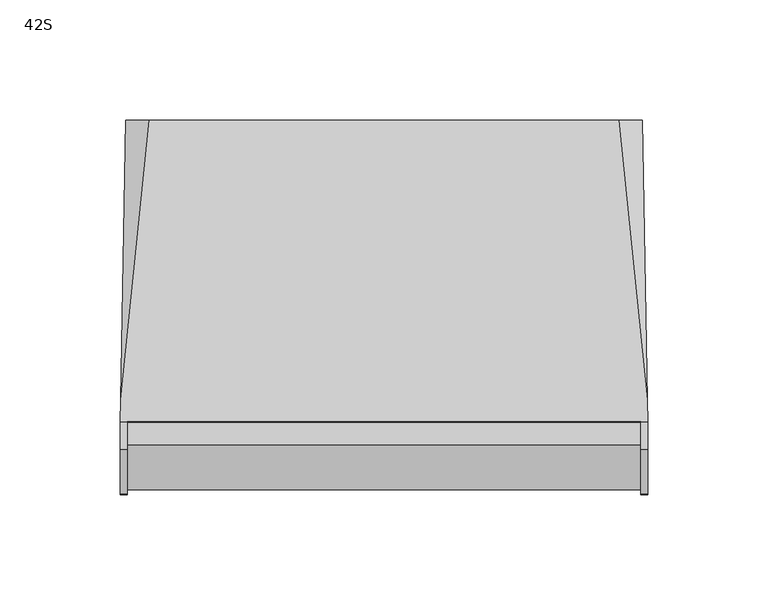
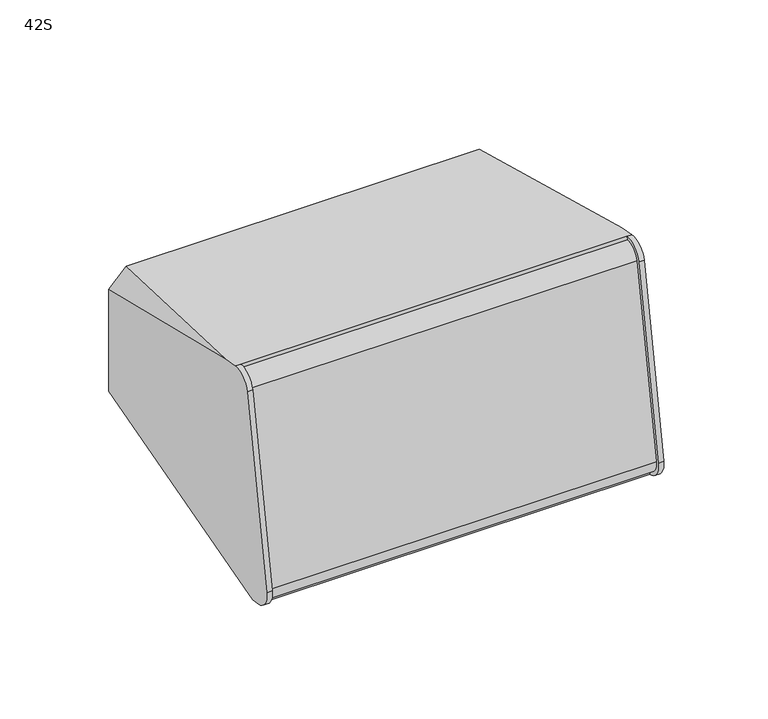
"""IFC4 building model written with IfcOpenShell, lengths in millimetres: proxy geometry, d&b xS-Series 42S Point Source : 42S."""

from ifc_helpers import new_model, si_unit, point, frame, frame_2d, origin, place, context, project, spatial, polyline, circle_curve, ellipse_curve, trimmed, segment, composite_curve, outline, extrude, source, transform, mapped, element, save
from ifc_brep_helpers import plane_surface, cylinder_surface, revolved_surface, advanced_brep


def proxy_42s_521dafe3(model_context):
    return source(origin(), model_context, "Body", "SolidModel", [
        advanced_brep(
        [(107.0, -53.8838283, 74.4884759), (-107.0, -53.8838283, 74.4884759), (-107.0, -54.2235668, 72.5617234), (107.0, -54.2235668, 72.5617234), (-107.0, -63.4507785, 66.1007602), (107.0, -63.4507785, 66.1007602), (-107.0, -82.2184008, -40.3357147), (107.0, -82.2184008, -40.3357147), (-107.0, -75.7291242, -49.6033621), (107.0, -75.7291242, -49.6033621), (-107.0, -76.0764205, -51.5729776), (107.0, -76.0764205, -51.5729776), (-109.8273531, -76.0764205, -51.5729776), (-109.7253263, -70.2363231, -52.6027444), (109.7253263, -70.2363231, -52.6027444), (109.8273531, -76.0764205, -51.5729776), (109.8279536, -53.8838283, 74.4884759), (109.6679034, -44.7224233, 72.873073), (97.8946622, 71.803477, 52.3264129), (-97.8946622, 71.803477, 52.3264129), (-109.6679034, -44.7224233, 72.873073), (-109.8279536, -53.8838283, 74.4884759), (-96.5142171, 71.803477, -27.569373), (96.5142171, 71.803477, -27.569373), (109.6679034, -66.7384961, -51.9862805), (-109.6679034, -66.7384961, -51.9862805), (107.602215, 71.803477, 42.2930744), (-107.602215, 71.803477, 42.2930744), (-107.4240938, 71.803477, -17.3279766), (107.4240938, 71.803477, -17.3279766), (109.9986507, -65.3775311, 66.4404986), (109.9993995, -84.1880163, -39.9884183), (-109.9993995, -84.1880163, -39.9884183), (-109.9993995, -65.420394, 66.4480565), (107.0, -84.1880163, -39.9884183), (107.0, -65.420394, 66.4480565), (95.447753, 71.803477, 33.2098641), (82.947753, 71.803477, 45.7098641), (67.052247, 71.803477, 45.7098641), (54.552247, 71.803477, 33.2098641), (54.552247, 71.803477, -8.3756313), (67.052247, 71.803477, -20.8756313), (82.947753, 71.803477, -20.8756313), (95.447753, 71.803477, -8.3756313), (-52.1, 71.803477, 33.2098641), (-64.6, 71.803477, 45.7098641), (-82.4, 71.803477, 45.7098641), (-94.9, 71.803477, 33.2098641), (-94.9, 71.803477, -8.3756313), (-82.4, 71.803477, -20.8756313), (-64.6, 71.803477, -20.8756313), (-52.1, 71.803477, -8.3756313), (95.447753, 66.803477, 33.2098641), (95.447753, 66.803477, -8.3756313), (82.947753, 66.803477, -20.8756313), (67.052247, 66.803477, -20.8756313), (54.552247, 66.803477, -8.3756313), (54.552247, 66.803477, 33.2098641), (67.052247, 66.803477, 45.7098641), (82.947753, 66.803477, 45.7098641), (-52.1, 66.803477, 33.2098641), (-52.1, 66.803477, -8.3756313), (-64.6, 66.803477, -20.8756313), (-82.4, 66.803477, -20.8756313), (-94.9, 66.803477, -8.3756313), (-94.9, 66.803477, 33.2098641), (-82.4, 66.803477, 45.7098641), (-64.6, 66.803477, 45.7098641), (-107.0, -65.3775311, 66.4404986), (-107.0, -84.1880163, -39.9884183)],
        [
            (0, 1),
            (1, 2),
            (2, 3),
            (3, 0),
            (2, 4, circle_curve(frame((-107.0, -55.606691, 64.7176359), z_axis=(1.0, 0.0, 0.0), x_axis=(0.0, 0.17364817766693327, 0.9848077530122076)), 7.9650952)),
            (4, 5),
            (5, 3, circle_curve(frame((107.0, -55.606691, 64.7176359), z_axis=(-1.0, 0.0, 0.0), x_axis=(0.0, 0.17364817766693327, 0.9848077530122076)), 7.9650952)),
            (4, 6),
            (6, 7),
            (7, 5),
            (6, 8, circle_curve(frame((-107.0, -74.3399388, -41.7249001), z_axis=(1.0, 0.0, 0.0), x_axis=(0.0, 0.17364817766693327, 0.9848077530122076)), 8.0)),
            (8, 9),
            (9, 7, circle_curve(frame((107.0, -74.3399388, -41.7249001), z_axis=(-1.0, 0.0, 0.0), x_axis=(0.0, 0.17364817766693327, 0.9848077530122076)), 8.0)),
            (8, 10),
            (10, 11),
            (11, 9),
            (10, 12),
            (12, 13),
            (13, 14),
            (14, 15),
            (15, 11),
            (0, 16),
            (16, 17),
            (17, 18),
            (18, 19),
            (19, 20),
            (20, 21),
            (21, 1),
            (22, 23),
            (23, 24),
            (24, 14),
            (13, 25),
            (25, 22),
            (26, 18),
            (17, 26),
            (19, 27),
            (27, 20),
            (28, 22),
            (25, 28),
            (23, 29),
            (29, 24),
            (29, 26),
            (16, 30, ellipse_curve(frame((109.8279536, -55.606691, 64.7176359), z_axis=(0.9998520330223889, 0.016940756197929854, -0.0029871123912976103), x_axis=(0.01720209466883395, -0.9846620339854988, 0.17362248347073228)), 9.9230392, 9.921571)),
            (30, 31),
            (31, 15, ellipse_curve(frame((109.8273531, -74.3399388, -41.7249001), z_axis=(0.9998520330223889, 0.016940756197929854, -0.0029871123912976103), x_axis=(0.01720209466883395, -0.9846620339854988, 0.17362248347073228)), 10.0014799, 10.0)),
            (12, 32, ellipse_curve(frame((-109.8273531, -74.3399388, -41.7249001), z_axis=(-0.9998520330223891, 0.016940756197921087, -0.0029871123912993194), x_axis=(0.017202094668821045, 0.9846620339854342, -0.1736224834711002)), 10.0014799, 10.0)),
            (32, 33),
            (33, 21, ellipse_curve(frame((-109.8279536, -55.606691, 64.7176359), z_axis=(-0.9998520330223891, 0.016940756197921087, -0.0029871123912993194), x_axis=(0.017202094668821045, 0.9846620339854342, -0.1736224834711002)), 9.9230392, 9.921571)),
            (27, 28),
            (11, 34, circle_curve(frame((107.0, -74.3399388, -41.7249001), z_axis=(-1.0, 0.0, 0.0), x_axis=(0.0, 0.17364817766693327, 0.9848077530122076)), 10.0)),
            (34, 35),
            (35, 0, circle_curve(frame((107.0, -55.606691, 64.7176359), z_axis=(-1.0, 0.0, 0.0), x_axis=(0.0, 0.17364817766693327, 0.9848077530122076)), 9.921571)),
            (35, 30),
            (34, 31),
            (36, 37, circle_curve(frame((82.947753, 71.803477, 33.2098641), z_axis=(0.0, -1.0, 0.0), x_axis=(0.0, 0.0, -1.0)), 12.5)),
            (37, 38),
            (38, 39, circle_curve(frame((67.052247, 71.803477, 33.2098641), z_axis=(0.0, -1.0, 0.0), x_axis=(0.0, 0.0, -1.0)), 12.5)),
            (39, 40),
            (40, 41, circle_curve(frame((67.052247, 71.803477, -8.3756313), z_axis=(0.0, -1.0, 0.0), x_axis=(0.0, 0.0, -1.0)), 12.5)),
            (41, 42),
            (42, 43, circle_curve(frame((82.947753, 71.803477, -8.3756313), z_axis=(0.0, -1.0, 0.0), x_axis=(0.0, 0.0, -1.0)), 12.5)),
            (43, 36),
            (44, 45, circle_curve(frame((-64.6, 71.803477, 33.2098641), z_axis=(0.0, -1.0, 0.0), x_axis=(0.0, 0.0, -1.0)), 12.5)),
            (45, 46),
            (46, 47, circle_curve(frame((-82.4, 71.803477, 33.2098641), z_axis=(0.0, -1.0, 0.0), x_axis=(0.0, 0.0, -1.0)), 12.5)),
            (47, 48),
            (48, 49, circle_curve(frame((-82.4, 71.803477, -8.3756313), z_axis=(0.0, -1.0, 0.0), x_axis=(0.0, 0.0, -1.0)), 12.5)),
            (49, 50),
            (50, 51, circle_curve(frame((-64.6, 71.803477, -8.3756313), z_axis=(0.0, -1.0, 0.0), x_axis=(0.0, 0.0, -1.0)), 12.5)),
            (51, 44),
            (52, 53),
            (53, 54, circle_curve(frame((82.947753, 66.803477, -8.3756313), z_axis=(0.0, 1.0, 0.0), x_axis=(0.0, 0.0, -1.0)), 12.5)),
            (54, 55),
            (55, 56, circle_curve(frame((67.052247, 66.803477, -8.3756313), z_axis=(0.0, 1.0, 0.0), x_axis=(0.0, 0.0, -1.0)), 12.5)),
            (56, 57),
            (57, 58, circle_curve(frame((67.052247, 66.803477, 33.2098641), z_axis=(0.0, 1.0, 0.0), x_axis=(0.0, 0.0, -1.0)), 12.5)),
            (58, 59),
            (59, 52, circle_curve(frame((82.947753, 66.803477, 33.2098641), z_axis=(0.0, 1.0, 0.0), x_axis=(0.0, 0.0, -1.0)), 12.5)),
            (60, 61),
            (61, 62, circle_curve(frame((-64.6, 66.803477, -8.3756313), z_axis=(0.0, 1.0, 0.0), x_axis=(0.0, 0.0, -1.0)), 12.5)),
            (62, 63),
            (63, 64, circle_curve(frame((-82.4, 66.803477, -8.3756313), z_axis=(0.0, 1.0, 0.0), x_axis=(0.0, 0.0, -1.0)), 12.5)),
            (64, 65),
            (65, 66, circle_curve(frame((-82.4, 66.803477, 33.2098641), z_axis=(0.0, 1.0, 0.0), x_axis=(0.0, 0.0, -1.0)), 12.5)),
            (66, 67),
            (67, 60, circle_curve(frame((-64.6, 66.803477, 33.2098641), z_axis=(0.0, 1.0, 0.0), x_axis=(0.0, 0.0, -1.0)), 12.5)),
            (1, 68, circle_curve(frame((-107.0, -55.606691, 64.7176359), z_axis=(1.0, 0.0, 0.0), x_axis=(0.0, 0.17364817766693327, 0.9848077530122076)), 9.921571)),
            (68, 69),
            (69, 10, circle_curve(frame((-107.0, -74.3399388, -41.7249001), z_axis=(1.0, 0.0, 0.0), x_axis=(0.0, 0.17364817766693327, 0.9848077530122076)), 10.0)),
            (33, 68),
            (32, 69),
            (59, 37),
            (36, 52),
            (58, 38),
            (57, 39),
            (56, 40),
            (55, 41),
            (54, 42),
            (53, 43),
            (67, 45),
            (44, 60),
            (66, 46),
            (65, 47),
            (64, 48),
            (63, 49),
            (62, 50),
            (61, 51),
        ],
        [
            plane_surface(frame((107.0, -53.8838283, 74.4884759), z_axis=(0.0, -0.9848077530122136, 0.1736481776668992), x_axis=(-1.0, 0.0, 0.0))),
            cylinder_surface(frame((-107.0, -55.606691, 64.7176359), z_axis=(1.0, 0.0, 0.0), x_axis=(0.0, 0.17364817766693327, 0.9848077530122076)), 7.9650952),
            plane_surface(frame((107.0, -63.4507785, 66.1007602), z_axis=(0.0, -0.9848077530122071, 0.17364817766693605), x_axis=(-1.0, 0.0, 0.0))),
            cylinder_surface(frame((-107.0, -74.3399388, -41.7249001), z_axis=(1.0, 0.0, 0.0), x_axis=(0.0, 0.17364817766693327, 0.9848077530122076)), 8.0),
            plane_surface(frame((107.0, -75.7291242, -49.6033621), z_axis=(0.0, -0.9848077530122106, 0.17364817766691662), x_axis=(-1.0, 0.0, 0.0))),
            plane_surface(frame((107.0, -76.0764205, -51.5729776), z_axis=(0.0, -0.17364817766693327, -0.9848077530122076), x_axis=(-1.0, 0.0, 0.0))),
            plane_surface(frame((107.0, -48.0093563, 73.452648), z_axis=(0.0, 0.17364817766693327, 0.9848077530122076), x_axis=(-1.0, 0.0, 0.0))),
            plane_surface(frame((0.0, 72.3274823, -27.4770213), z_axis=(0.0, 0.17356696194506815, -0.9848220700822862), x_axis=(1.0, 0.0, 0.0))),
            plane_surface(frame((103.232233, 84.7836622, 43.1654853), z_axis=(0.7053631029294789, 0.1916027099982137, 0.6824597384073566), x_axis=(-0.7071067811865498, 0.12278780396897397, 0.6963642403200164))),
            plane_surface(frame((-103.232233, 84.7836622, 43.1654853), z_axis=(-0.7053631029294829, 0.19160270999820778, 0.6824597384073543), x_axis=(-0.7071067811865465, -0.12278780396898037, -0.6963642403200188))),
            plane_surface(frame((-103.232233, 73.5026927, -20.812072), z_axis=(-0.6719558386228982, 0.18995477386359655, -0.715815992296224), x_axis=(0.7071067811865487, -0.12278780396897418, -0.6963642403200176))),
            plane_surface(frame((103.232233, 73.5026927, -20.812072), z_axis=(0.6719558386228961, 0.189954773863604, -0.7158159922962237), x_axis=(0.7071067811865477, 0.12278780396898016, 0.6963642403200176))),
            plane_surface(frame((110.3665166, -113.1899198, -81.5842244), z_axis=(0.9998520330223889, 0.016940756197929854, -0.0029871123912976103), x_axis=(0.0, 0.17364817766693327, 0.9848077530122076))),
            plane_surface(frame((-107.2474477, 65.3481506, -113.0653033), z_axis=(-0.9998520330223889, 0.016940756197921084, -0.0029871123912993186), x_axis=(0.0, 0.17364817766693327, 0.9848077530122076))),
            plane_surface(frame((107.0, -53.8838283, 74.4884759), z_axis=(-1.0, 0.0, 0.0), x_axis=(0.0, 0.9848077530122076, -0.17364817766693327))),
            cylinder_surface(frame((107.0, -55.606691, 64.7176359), z_axis=(1.0, 0.0, 0.0), x_axis=(0.0, 0.17364817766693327, 0.9848077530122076)), 9.921571),
            plane_surface(frame((112.6426388, -65.420394, 66.4480565), z_axis=(0.0, -0.9848077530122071, 0.17364817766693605), x_axis=(-1.0, 0.0, 0.0))),
            cylinder_surface(frame((107.0, -74.3399388, -41.7249001), z_axis=(1.0, 0.0, 0.0), x_axis=(0.0, 0.17364817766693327, 0.9848077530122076)), 10.0),
            plane_surface(frame((250.0, 71.803477, 69.8511939), z_axis=(0.0, 1.0, 0.0), x_axis=(-1.0, 0.0, 0.0))),
            plane_surface(frame((82.947753, 66.803477, 20.7098641), z_axis=(0.0, 1.0, 0.0), x_axis=(1.0, 0.0, 0.0))),
            plane_surface(frame((-107.0, -53.8838283, 74.4884759), z_axis=(1.0, 0.0, 0.0), x_axis=(0.0, -0.9848077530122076, 0.17364817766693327))),
            cylinder_surface(frame((-113.0, -55.606691, 64.7176359), z_axis=(1.0, 0.0, 0.0), x_axis=(0.0, 0.17364817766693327, 0.9848077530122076)), 9.921571),
            plane_surface(frame((-107.0, -65.420394, 66.4480565), z_axis=(0.0, -0.9848077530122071, 0.17364817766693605), x_axis=(-1.0, 0.0, 0.0))),
            cylinder_surface(frame((-113.0, -74.3399388, -41.7249001), z_axis=(1.0, 0.0, 0.0), x_axis=(0.0, 0.17364817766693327, 0.9848077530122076)), 10.0),
            revolved_surface(polyline([(82.947753, 66.803477, 20.709864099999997), (82.947753, 71.803477, 20.709864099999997)]), (82.947753, 71.803477, 33.2098641), (0.0, -1.0, 0.0)),
            plane_surface(frame((82.947753, 66.803477, 45.7098641), z_axis=(0.0, 0.0, -1.0), x_axis=(0.0, 1.0, 0.0))),
            revolved_surface(polyline([(67.052247, 66.803477, 20.709864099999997), (67.052247, 71.803477, 20.709864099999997)]), (67.052247, 71.803477, 33.2098641), (0.0, -1.0, 0.0)),
            plane_surface(frame((54.552247, 66.803477, 33.2098641), z_axis=(1.0, 0.0, 0.0), x_axis=(0.0, 1.0, 0.0))),
            revolved_surface(polyline([(67.052247, 66.803477, -20.875631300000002), (67.052247, 71.803477, -20.875631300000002)]), (67.052247, 71.803477, -8.3756313), (0.0, -1.0, 0.0)),
            plane_surface(frame((67.052247, 66.803477, -20.8756313), z_axis=(0.0, 0.0, 1.0), x_axis=(0.0, 1.0, 0.0))),
            revolved_surface(polyline([(82.947753, 66.803477, -20.875631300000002), (82.947753, 71.803477, -20.875631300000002)]), (82.947753, 71.803477, -8.3756313), (0.0, -1.0, 0.0)),
            plane_surface(frame((95.447753, 66.803477, -8.3756313), z_axis=(-1.0, 0.0, 0.0), x_axis=(0.0, 1.0, 0.0))),
            revolved_surface(polyline([(-64.6, 66.803477, 20.709864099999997), (-64.6, 71.803477, 20.709864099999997)]), (-64.6, 71.803477, 33.2098641), (0.0, -1.0, 0.0)),
            plane_surface(frame((-64.6, 66.803477, 45.7098641), z_axis=(0.0, 0.0, -1.0), x_axis=(0.0, 1.0, 0.0))),
            revolved_surface(polyline([(-82.4, 66.803477, 20.709864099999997), (-82.4, 71.803477, 20.709864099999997)]), (-82.4, 71.803477, 33.2098641), (0.0, -1.0, 0.0)),
            plane_surface(frame((-94.9, 66.803477, 33.2098641), z_axis=(1.0, 0.0, 0.0), x_axis=(0.0, 1.0, 0.0))),
            revolved_surface(polyline([(-82.4, 66.803477, -20.875631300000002), (-82.4, 71.803477, -20.875631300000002)]), (-82.4, 71.803477, -8.3756313), (0.0, -1.0, 0.0)),
            plane_surface(frame((-82.4, 66.803477, -20.8756313), z_axis=(0.0, 0.0, 1.0), x_axis=(0.0, 1.0, 0.0))),
            revolved_surface(polyline([(-64.6, 66.803477, -20.875631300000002), (-64.6, 71.803477, -20.875631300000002)]), (-64.6, 71.803477, -8.3756313), (0.0, -1.0, 0.0)),
            plane_surface(frame((-52.1, 66.803477, -8.3756313), z_axis=(-1.0, 0.0, 0.0), x_axis=(0.0, 1.0, 0.0))),
        ],
        [
            (0, [[1, 2, 3, 4]]),
            (1, [[-3, 5, 6, 7]]),
            (2, [[-6, 8, 9, 10]]),
            (3, [[-9, 11, 12, 13]]),
            (4, [[-12, 14, 15, 16]]),
            (5, [[-15, 17, 18, 19, 20, 21]]),
            (6, [[-1, 22, 23, 24, 25, 26, 27, 28]]),
            (7, [[29, 30, 31, -19, 32, 33]]),
            (8, [[34, -24, 35]]),
            (9, [[-26, 36, 37]]),
            (10, [[38, -33, 39]]),
            (11, [[-30, 40, 41]]),
            (12, [[-20, -31, -41, 42, -35, -23, 43, 44, 45]]),
            (13, [[-18, 46, 47, 48, -27, -37, 49, -39, -32]]),
            (14, [[50, 51, 52, -4, -7, -10, -13, -16]]),
            (15, [[-52, 53, -43, -22]]),
            (16, [[-51, 54, -44, -53]]),
            (17, [[-50, -21, -45, -54]]),
            (18, [[-25, -34, -42, -40, -29, -38, -49, -36], [55, 56, 57, 58, 59, 60, 61, 62], [63, 64, 65, 66, 67, 68, 69, 70]]),
            (19, [[71, 72, 73, 74, 75, 76, 77, 78]]),
            (19, [[79, 80, 81, 82, 83, 84, 85, 86]]),
            (20, [[87, 88, 89, -14, -11, -8, -5, -2]]),
            (21, [[-87, -28, -48, 90]]),
            (22, [[-88, -90, -47, 91]]),
            (23, [[-89, -91, -46, -17]]),
            (24, [[-78, 92, -55, 93]]),
            (25, [[-77, 94, -56, -92]]),
            (26, [[-76, 95, -57, -94]]),
            (27, [[-75, 96, -58, -95]]),
            (28, [[-74, 97, -59, -96]]),
            (29, [[-73, 98, -60, -97]]),
            (30, [[-72, 99, -61, -98]]),
            (31, [[-71, -93, -62, -99]]),
            (32, [[-86, 100, -63, 101]]),
            (33, [[-85, 102, -64, -100]]),
            (34, [[-84, 103, -65, -102]]),
            (35, [[-83, 104, -66, -103]]),
            (36, [[-82, 105, -67, -104]]),
            (37, [[-81, 106, -68, -105]]),
            (38, [[-80, 107, -69, -106]]),
            (39, [[-79, -101, -70, -107]]),
        ],
    ),
        extrude(outline(composite_curve([segment(trimmed(circle_curve(frame_2d((27.3761131, -74.8471384)), 12.0), [point((15.3761131, -74.8471384))], [point((39.3761131, -74.8471384))], False, "CARTESIAN"), True, "CONTINUOUS"), segment(trimmed(circle_curve(frame_2d((27.3761131, -74.8471384)), 12.0), [point((39.3761131, -74.8471384))], [point((15.3761131, -74.8471384))], False, "CARTESIAN"), True, "CONTINUOUS")], self_intersect=False)), frame((0.0, 66.803477, 0.0), z_axis=(0.0, 1.0, 0.0), x_axis=(0.0, 0.0, 1.0)), (0.0, 0.0, 1.0), 5.0),
        extrude(outline(composite_curve([segment(trimmed(circle_curve(frame_2d((-2.6238869, -74.8471384)), 12.0), [point((-14.6238869, -74.8471384))], [point((9.3761131, -74.8471384))], False, "CARTESIAN"), True, "CONTINUOUS"), segment(trimmed(circle_curve(frame_2d((-2.6238869, -74.8471384)), 12.0), [point((9.3761131, -74.8471384))], [point((-14.6238869, -74.8471384))], False, "CARTESIAN"), True, "CONTINUOUS")], self_intersect=False)), frame((0.0, 66.803477, 0.0), z_axis=(0.0, 1.0, 0.0), x_axis=(0.0, 0.0, 1.0)), (0.0, 0.0, 1.0), 5.0),
    ])


if __name__ == "__main__":
    model = new_model("IFC4")
    model_context = context("Model", 3, world=origin())
    ifc_project = project(units=[si_unit("LENGTHUNIT", "METRE", prefix="MILLI")], contexts=[model_context])
    site = spatial("IfcSite", under=ifc_project)
    building = spatial("IfcBuilding", under=site)
    placement = place(None, origin())
    proxy_42s_shape = proxy_42s_521dafe3(model_context)
    element("IfcBuildingElementProxy", 1, Name="d&b xS-Series 42S Point Source : 42S", ObjectType="d&b xS-Series 42S Point Source : 42S", at=placement, inside=building, context=model_context, shape_type="MappedRepresentation", body=[
        mapped(proxy_42s_shape, transform((0.0, 0.0, 0.0), x_axis=(1.0, 0.0, 0.0), y_axis=(0.0, 1.0, 0.0), z_axis=(0.0, 0.0, 1.0))),
    ])
    save(model, "model.ifc")
